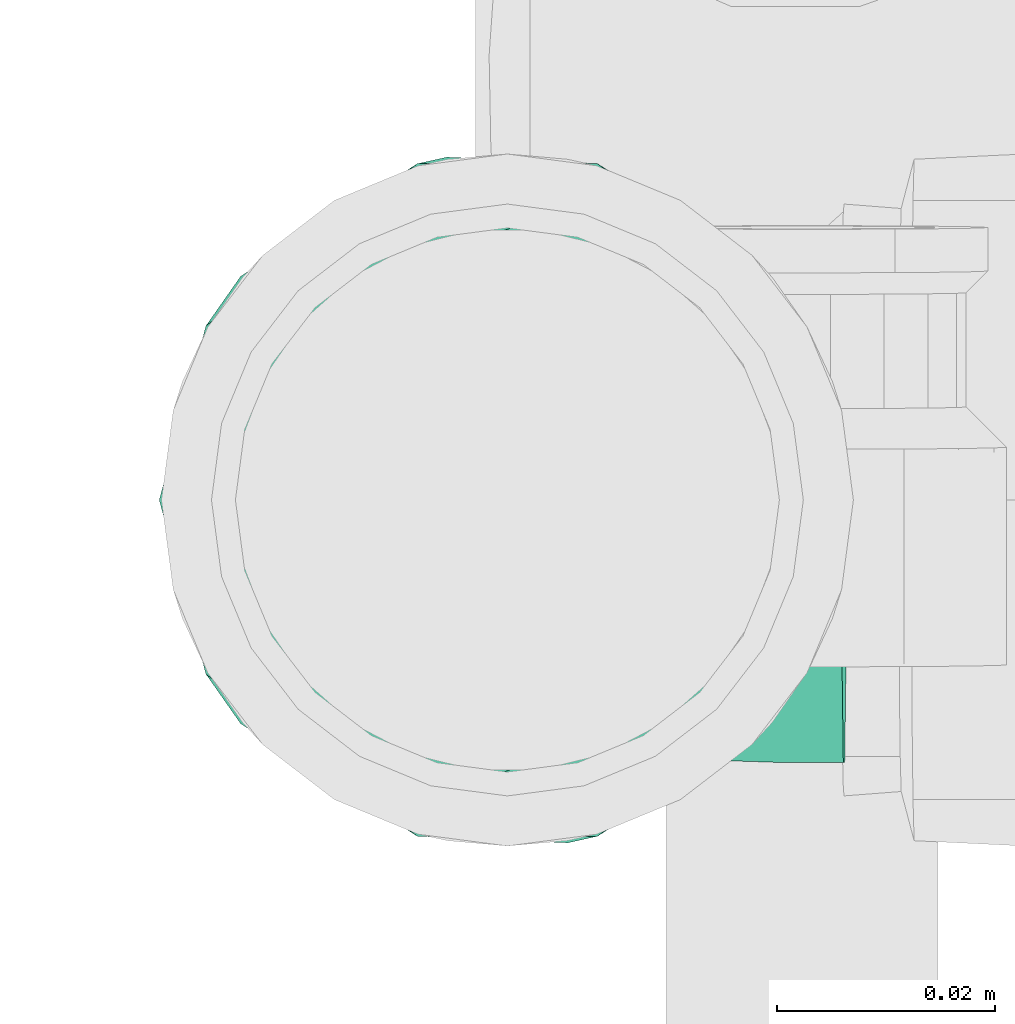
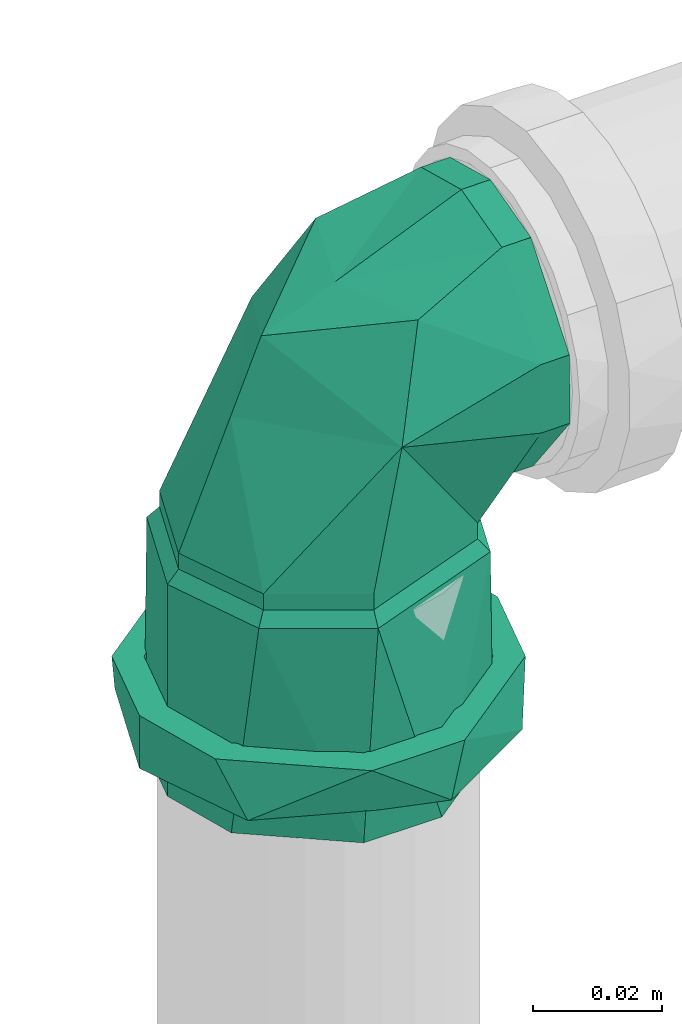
# One storey, part 169 of 589: 1 flow fitting.
"""IFC2X3 building model written with IfcOpenShell, lengths in millimetres."""

from ifc_helpers import new_model, entity, si_unit, converted_unit, derived_unit, direction, frame, origin, place, context, subcontext, project, spatial, faceted_brep, source, transform, mapped, material, type_object, type_shapes, element, save


model = new_model("IFC2X3")

# Units and contexts
model_context = context("Model", 3, precision=0.01, world=origin(), true_north=direction((6.123031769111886e-17, 1.0)))
body_context = subcontext(model_context, "Body", "Model", "MODEL_VIEW")
ifc_project = project(units=[si_unit("LENGTHUNIT", "METRE", prefix="MILLI"), si_unit("AREAUNIT", "SQUARE_METRE"), si_unit("VOLUMEUNIT", "CUBIC_METRE"), converted_unit("PLANEANGLEUNIT", "DEGREE", entity("IfcRatioMeasure", 0.017453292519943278), si_unit("PLANEANGLEUNIT", "RADIAN"), dimensions=[0, 0, 0, 0, 0, 0, 0]), si_unit("MASSUNIT", "GRAM", prefix="KILO"), derived_unit("MASSDENSITYUNIT", [(si_unit("MASSUNIT", "GRAM", prefix="KILO"), 1), (si_unit("LENGTHUNIT", "METRE"), -3)]), derived_unit("IONCONCENTRATIONUNIT", [(si_unit("MASSUNIT", "GRAM", prefix="KILO"), 1), (si_unit("LENGTHUNIT", "METRE"), -3)]), derived_unit("MOMENTOFINERTIAUNIT", [(si_unit("LENGTHUNIT", "METRE"), 4)]), si_unit("TIMEUNIT", "SECOND"), si_unit("FREQUENCYUNIT", "HERTZ"), si_unit("THERMODYNAMICTEMPERATUREUNIT", "DEGREE_CELSIUS"), derived_unit("THERMALTRANSMITTANCEUNIT", [(si_unit("MASSUNIT", "GRAM", prefix="KILO"), 1), (si_unit("THERMODYNAMICTEMPERATUREUNIT", "KELVIN"), -1), (si_unit("TIMEUNIT", "SECOND"), -3)]), derived_unit("THERMALCONDUCTANCEUNIT", [(si_unit("MASSUNIT", "GRAM", prefix="KILO"), 1), (si_unit("THERMODYNAMICTEMPERATUREUNIT", "KELVIN"), -1), (si_unit("TIMEUNIT", "SECOND"), -3), (si_unit("LENGTHUNIT", "METRE"), 1)]), derived_unit("VOLUMETRICFLOWRATEUNIT", [(si_unit("LENGTHUNIT", "METRE"), 3), (si_unit("TIMEUNIT", "SECOND"), -1)]), derived_unit("MASSFLOWRATEUNIT", [(si_unit("MASSUNIT", "GRAM", prefix="KILO"), 1), (si_unit("TIMEUNIT", "SECOND"), -1)]), derived_unit("ROTATIONALFREQUENCYUNIT", [(si_unit("TIMEUNIT", "SECOND"), -1)]), si_unit("ELECTRICCURRENTUNIT", "AMPERE"), si_unit("ELECTRICVOLTAGEUNIT", "VOLT"), si_unit("POWERUNIT", "WATT"), si_unit("FORCEUNIT", "NEWTON", prefix="KILO"), si_unit("ILLUMINANCEUNIT", "LUX"), si_unit("LUMINOUSFLUXUNIT", "LUMEN"), si_unit("LUMINOUSINTENSITYUNIT", "CANDELA"), derived_unit("USERDEFINED", [(si_unit("MASSUNIT", "GRAM", prefix="KILO"), -1), (si_unit("LENGTHUNIT", "METRE"), -2), (si_unit("TIMEUNIT", "SECOND"), 3), (si_unit("LUMINOUSFLUXUNIT", "LUMEN"), 1)]), derived_unit("USERDEFINED", [(si_unit("MASSUNIT", "GRAM", prefix="KILO"), 1), (si_unit("TIMEUNIT", "SECOND"), -3), (si_unit("LENGTHUNIT", "METRE"), 3), (si_unit("ELECTRICCURRENTUNIT", "AMPERE"), -2)]), derived_unit("SOUNDPOWERUNIT", [(si_unit("MASSUNIT", "GRAM", prefix="KILO"), 1), (si_unit("TIMEUNIT", "SECOND"), -3), (si_unit("LENGTHUNIT", "METRE"), 2)]), derived_unit("SOUNDPRESSUREUNIT", [(si_unit("MASSUNIT", "GRAM", prefix="KILO"), 1), (si_unit("LENGTHUNIT", "METRE"), -1), (si_unit("TIMEUNIT", "SECOND"), -2)]), derived_unit("LINEARVELOCITYUNIT", [(si_unit("LENGTHUNIT", "METRE"), 1), (si_unit("TIMEUNIT", "SECOND"), -1)]), si_unit("PRESSUREUNIT", "PASCAL"), derived_unit("USERDEFINED", [(si_unit("MASSUNIT", "GRAM", prefix="KILO"), 1), (si_unit("LENGTHUNIT", "METRE"), -2), (si_unit("TIMEUNIT", "SECOND"), -2)]), derived_unit("LINEARFORCEUNIT", [(si_unit("MASSUNIT", "GRAM", prefix="KILO"), 1), (si_unit("TIMEUNIT", "SECOND"), -2)]), derived_unit("PLANARFORCEUNIT", [(si_unit("MASSUNIT", "GRAM", prefix="KILO"), 1), (si_unit("LENGTHUNIT", "METRE"), -1), (si_unit("TIMEUNIT", "SECOND"), -2)]), derived_unit("SPECIFICHEATCAPACITYUNIT", [(si_unit("THERMODYNAMICTEMPERATUREUNIT", "KELVIN"), -1), (si_unit("LENGTHUNIT", "METRE"), 2), (si_unit("TIMEUNIT", "SECOND"), -2)]), derived_unit("HEATINGVALUEUNIT", [(si_unit("LENGTHUNIT", "METRE"), 2), (si_unit("TIMEUNIT", "SECOND"), -2)]), derived_unit("VAPORPERMEABILITYUNIT", [(si_unit("LENGTHUNIT", "METRE"), -1), (si_unit("TIMEUNIT", "SECOND"), 1)]), derived_unit("DYNAMICVISCOSITYUNIT", [(si_unit("MASSUNIT", "GRAM", prefix="KILO"), 1), (si_unit("TIMEUNIT", "SECOND"), -1), (si_unit("LENGTHUNIT", "METRE"), -1)]), derived_unit("THERMALEXPANSIONCOEFFICIENTUNIT", [(si_unit("THERMODYNAMICTEMPERATUREUNIT", "KELVIN"), -1)]), derived_unit("MODULUSOFELASTICITYUNIT", [(si_unit("MASSUNIT", "GRAM", prefix="KILO"), 1), (si_unit("LENGTHUNIT", "METRE"), -1), (si_unit("TIMEUNIT", "SECOND"), -2)]), derived_unit("ISOTHERMALMOISTURECAPACITYUNIT", [(si_unit("LENGTHUNIT", "METRE"), 3), (si_unit("MASSUNIT", "GRAM", prefix="KILO"), -1)]), derived_unit("MOISTUREDIFFUSIVITYUNIT", [(si_unit("TIMEUNIT", "SECOND"), -1), (si_unit("LENGTHUNIT", "METRE"), 2)])], contexts=[model_context])

# Site, building, storey
site_placement = place(None, origin())
site = spatial("IfcSite", under=ifc_project, at=site_placement, Name="Default", CompositionType="ELEMENT")
building_placement = place(site_placement, origin())
building = spatial("IfcBuilding", under=site, at=building_placement, CompositionType="ELEMENT")
storey_placement = place(building_placement, frame((0.0, 0.0, 100.0)))
storey = spatial("IfcBuildingStorey", under=building, at=storey_placement, Name="TÉRREO", CompositionType="ELEMENT", Elevation=100.0)

# Flow fitting
ifc_material = material(Name="PVC Série Normal")
pipe_fitting_type = type_object("IfcPipeFittingType", Name="PVC Esgoto_Joelho 45_90_Rodrigo MEP:a. Série Normal", PredefinedType="NOTDEFINED", material=ifc_material)
shared_shape = source(origin(), body_context, "Body", "Brep", [
    faceted_brep([(-6.212752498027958, 25.804714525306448, 24.14814565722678), (-21.392152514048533, 25.95650852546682, 12.500000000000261), (-24.741349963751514, 25.990000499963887, 0.0), (-21.392152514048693, 25.956508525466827, -12.499999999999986), (-6.21275249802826, 25.804714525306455, -24.1481456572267), (6.727552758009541, 25.675311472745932, -24.14814565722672), (21.906952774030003, 25.52351747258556, -12.500000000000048), (25.256150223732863, 25.490025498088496, 0.0), (21.906952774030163, 25.52351747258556, 12.499999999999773), (6.7275527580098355, 25.675311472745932, 24.148145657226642), (25.308147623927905, 30.689765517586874, 0.0), (21.958950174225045, 30.72325749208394, -12.500000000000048), (6.779550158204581, 30.87505149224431, -24.14814565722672), (-6.160755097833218, 31.004454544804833, -24.1481456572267), (-21.34015511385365, 31.156248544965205, -12.499999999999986), (-24.689352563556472, 31.18974051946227, 0.0), (-21.340155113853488, 31.1562485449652, 12.500000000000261), (-6.160755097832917, 31.00445454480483, 24.14814565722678), (6.779550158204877, 30.87505149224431, 24.148145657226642), (21.958950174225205, 30.72325749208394, 12.499999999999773)], [[[0, 1, 2, 3, 4, 5, 6, 7, 8, 9]], [[10, 11, 12, 13, 14, 15, 16, 17, 18, 19]], [[7, 10, 19, 8]], [[8, 19, 18, 9]], [[18, 17, 0, 9]], [[0, 17, 16, 1]], [[1, 16, 15, 2]], [[2, 15, 14, 3]], [[3, 14, 13, 4]], [[13, 12, 5, 4]], [[5, 12, 11, 6]], [[6, 11, 10, 7]]]),
    faceted_brep([(-70.94129996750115, -6.988114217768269, -26.07999730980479), (-70.94129996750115, -6.47047612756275, -24.14814565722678), (-70.94129996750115, 6.4704761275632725, -24.148145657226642), (-70.94129996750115, -23.382685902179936, -13.499999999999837), (-70.94129996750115, 6.988114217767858, -26.0799973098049), (-70.94129996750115, -21.650635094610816, -12.500000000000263), (-70.94129996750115, -25.0, 0.0), (-70.94129996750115, -27.0, 0.0), (-70.94129996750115, -21.650635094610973, 12.499999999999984), (-70.94129996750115, -23.382685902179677, 13.500000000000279), (-70.94129996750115, -6.470476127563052, 24.1481456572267), (-70.94129996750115, -6.98811421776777, 26.079997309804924), (-70.94129996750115, 6.470476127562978, 24.14814565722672), (-70.94129996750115, 6.988114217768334, 26.07999730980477), (-70.94129996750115, 21.650635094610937, 12.500000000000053), (-70.94129996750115, 23.38268590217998, 13.499999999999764), (-70.94129996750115, 27.0, 0.0), (-70.94129996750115, 25.0, 0.0), (-70.94129996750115, 23.382685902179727, -13.500000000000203), (-70.94129996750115, 21.6506350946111, -12.499999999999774), (-30.94129996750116, 21.650635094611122, -12.499999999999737), (-30.94129996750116, 25.0, 0.0), (-30.94129996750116, 6.4704761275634, -24.148145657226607), (-30.94129996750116, -6.470476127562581, -24.148145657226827), (-30.94129996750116, -21.650635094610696, -12.500000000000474), (-30.94129996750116, -25.0, 0.0), (-30.94129996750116, -21.65063509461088, 12.500000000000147), (-30.94129996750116, -6.470476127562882, 24.14814565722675), (-30.94129996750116, 6.470476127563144, 24.148145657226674), (-30.94129996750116, 21.650635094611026, 12.499999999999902), (-30.94129996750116, 27.0, 0.0), (-30.941299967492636, 20.682232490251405, 17.356418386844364), (-30.94129996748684, 4.685536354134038, 26.59033187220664), (-30.94129996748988, -20.686585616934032, 17.35122979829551), (-30.94129996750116, -27.0, 0.0), (-30.941299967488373, -8.000524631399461, 21.970780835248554), (-30.94129996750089, -20.686585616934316, -17.35122979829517), (-30.9412999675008, -4.6922062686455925, -26.589155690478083), (-30.94129996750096, 20.682232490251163, -17.356418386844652), (-30.94129996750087, 7.995013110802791, -21.97278703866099), (-28.74129996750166, -4.338459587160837, -24.62067765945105), (-28.741299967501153, 25.0, 0.0), (-28.741299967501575, 19.154245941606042, -16.065953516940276), (-28.741299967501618, 7.407893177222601, -20.34331558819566), (-28.741299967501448, -19.15021526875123, -16.070757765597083), (-28.741299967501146, -25.0, 0.0), (-28.741299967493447, -19.150215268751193, 16.07075776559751), (-28.741299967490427, -7.402789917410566, 20.345173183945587), (-28.74129996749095, 19.15424594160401, 16.065953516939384), (-28.741299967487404, 4.344635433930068, 24.619588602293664), (-25.741299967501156, 25.0, 0.0), (-25.741299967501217, 19.151286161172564, 16.069481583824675), (-25.741299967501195, 4.341396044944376, 24.62016003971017), (-25.741299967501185, -7.404832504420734, 20.344954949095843), (-25.741299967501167, -19.15106105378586, 16.069749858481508), (-25.741299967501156, -25.0, 0.0), (-25.741299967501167, -19.15106105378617, -16.069749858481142), (-25.741299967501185, -4.341051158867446, -24.62022085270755), (-25.741299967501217, 19.15128616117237, -16.069481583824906), (-25.7412999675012, 7.405117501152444, -20.344851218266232), (-6.212752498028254, 25.80471452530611, -24.1481456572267), (-21.39215251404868, 25.95650852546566, -12.499999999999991), (-24.74134996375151, 25.990000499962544, 0.0), (-21.3921525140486, 25.956508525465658, 12.500000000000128), (-6.2127524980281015, 25.80471452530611, 24.14814565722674), (6.7275527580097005, 25.67531147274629, 24.148145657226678), (21.906952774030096, 25.52351747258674, 12.499999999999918), (25.256150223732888, 25.490025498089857, 0.0), (21.90695277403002, 25.523517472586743, -12.500000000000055), (6.727552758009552, 25.67531147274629, -24.14814565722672), (-0.83580225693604, 1.5246716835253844, 23.354962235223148), (-3.2027279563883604, -15.730161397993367, 0.0), (10.140389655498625, -10.242300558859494, 0.0), (16.135012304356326, 8.632944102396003, 15.848254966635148), (-25.03773742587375, 25.289366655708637, 0.0), (15.761400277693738, 3.0452732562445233, 0.0), (16.135011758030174, 8.632944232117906, -15.848255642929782), (-0.8751695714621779, 1.433288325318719, -23.341145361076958)], [[[0, 1, 2]], [[1, 0, 3]], [[2, 4, 0]], [[3, 5, 1]], [[3, 6, 5]], [[6, 3, 7]], [[8, 6, 7]], [[8, 7, 9]], [[9, 10, 8]], [[9, 11, 10]], [[10, 11, 12]], [[13, 12, 11]], [[13, 14, 12]], [[14, 13, 15]], [[16, 14, 15]], [[17, 14, 16]], [[18, 17, 16]], [[18, 19, 17]], [[19, 18, 4]], [[4, 2, 19]], [[20, 21, 17, 19]], [[22, 20, 19, 2]], [[2, 1, 23, 22]], [[24, 23, 1, 5]], [[25, 24, 5, 6]], [[26, 25, 6, 8]], [[27, 26, 8, 10]], [[10, 12, 28, 27]], [[29, 28, 12, 14]], [[21, 29, 14, 17]], [[16, 15, 30]], [[15, 31, 30]], [[31, 15, 13]], [[31, 13, 32]], [[33, 11, 9]], [[34, 9, 7]], [[11, 33, 35, 32]], [[33, 9, 34]], [[11, 32, 13]], [[7, 3, 34]], [[3, 36, 34]], [[36, 3, 0]], [[36, 0, 37]], [[38, 4, 18]], [[30, 18, 16]], [[4, 38, 39, 37]], [[38, 18, 30]], [[4, 37, 0]], [[28, 29, 21, 20, 22, 23, 24, 25, 26, 27]], [[39, 40, 37]], [[41, 42, 30]], [[30, 42, 38]], [[38, 43, 39]], [[44, 45, 36]], [[38, 42, 43]], [[36, 37, 44]], [[34, 36, 45]], [[40, 39, 43]], [[44, 37, 40]], [[45, 46, 33]], [[33, 34, 45]], [[46, 35, 33]], [[46, 47, 35]], [[47, 32, 35]], [[48, 41, 30]], [[48, 31, 49]], [[31, 48, 30]], [[32, 47, 49]], [[49, 31, 32]], [[41, 48, 50]], [[48, 51, 50]], [[51, 48, 49]], [[51, 49, 52]], [[52, 47, 53]], [[46, 54, 53]], [[46, 45, 54]], [[49, 47, 52]], [[54, 45, 55]], [[47, 46, 53]], [[45, 44, 56]], [[45, 56, 55]], [[56, 44, 57]], [[58, 59, 43]], [[44, 40, 57]], [[40, 59, 57]], [[58, 43, 42]], [[42, 50, 58]], [[50, 42, 41]], [[59, 40, 43]], [[60, 61, 62, 63, 64, 65, 66, 67, 68, 69]], [[52, 70, 51]], [[54, 71, 70]], [[70, 52, 53, 54]], [[72, 73, 70]], [[50, 63, 74]], [[51, 63, 50]], [[54, 55, 71]], [[72, 70, 71]], [[75, 67, 66]], [[65, 70, 73]], [[73, 75, 66]], [[74, 63, 62]], [[73, 66, 65]], [[63, 51, 64]], [[70, 64, 51]], [[73, 72, 75]], [[65, 64, 70]], [[72, 76, 75]], [[71, 55, 56]], [[77, 58, 60]], [[77, 57, 59, 58]], [[77, 71, 56]], [[56, 57, 77]], [[77, 69, 76]], [[58, 50, 61]], [[74, 62, 61]], [[71, 77, 72]], [[61, 60, 58]], [[68, 75, 76]], [[68, 67, 75]], [[72, 77, 76]], [[76, 69, 68]], [[60, 69, 77]], [[61, 50, 74]]]),
    faceted_brep([(-53.94129996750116, 6.9881142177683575, -26.07999730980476), (-53.94129996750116, -6.988114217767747, -26.079997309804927), (-53.94129996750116, -8.282209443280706, -30.909626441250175), (-53.94129996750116, 8.28220944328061, -30.9096264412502), (-53.94129996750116, 23.38268590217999, -13.499999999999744), (-53.94129996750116, -27.712812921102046, -16.0), (-53.94129996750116, -23.38268590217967, -13.500000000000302), (-53.94129996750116, -27.0, 0.0), (-53.94129996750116, -32.0, 0.0), (-53.94129996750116, -23.382685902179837, 13.500000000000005), (-53.94129996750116, -27.712812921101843, 16.0), (-53.94129996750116, -6.988114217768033, 26.07999730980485), (-53.94129996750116, -8.28220944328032, 30.909626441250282), (-53.94129996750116, 6.988114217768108, 26.07999730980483), (-53.94129996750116, 8.282209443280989, 30.909626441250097), (-53.94129996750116, 23.382685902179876, 13.499999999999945), (-53.94129996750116, 27.712812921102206, 16.0), (-53.94129996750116, 32.0, 0.0), (-53.94129996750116, 27.0, 0.0), (-53.94129996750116, 27.712812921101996, -16.0), (-63.94129996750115, 27.0, 0.0), (-65.24129996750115, 27.0, 0.0), (-63.94129996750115, 25.191342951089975, -6.750000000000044), (-63.94129996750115, 23.38268590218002, -13.499999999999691), (-63.94129996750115, 19.284042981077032, -16.644999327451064), (-63.94129996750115, 15.185400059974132, -19.789998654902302), (-63.94129996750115, 11.086757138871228, -22.934997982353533), (-63.94129996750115, 6.988114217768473, -26.07999730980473), (-63.94129996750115, 0.0, -26.079997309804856), (-63.94129996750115, -6.988114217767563, -26.079997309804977), (-63.94129996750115, -11.086757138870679, -22.934997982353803), (-63.94129996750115, -15.185400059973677, -19.789998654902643), (-63.94129996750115, -19.284042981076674, -16.644999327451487), (-63.94129996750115, -23.382685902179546, -13.50000000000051), (-63.94129996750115, -25.191342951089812, -6.750000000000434), (-65.24129996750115, -27.0, 0.0), (-63.94129996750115, -27.0, 0.0), (-63.94129996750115, -25.19134295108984, 6.750000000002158), (-63.94129996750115, -23.382685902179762, 13.500000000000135), (-63.94129996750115, -19.284042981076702, 16.64499932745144), (-63.94129996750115, -15.185400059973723, 19.7899986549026), (-63.94129996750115, -11.086757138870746, 22.934997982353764), (-63.94129996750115, -6.988114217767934, 26.079997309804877), (-63.94129996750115, 0.0, 26.079997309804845), (-63.94129996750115, 6.988114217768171, 26.079997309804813), (-63.94129996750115, 11.086757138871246, 22.93499798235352), (-63.94129996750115, 15.185400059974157, 19.789998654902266), (-63.94129996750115, 19.284042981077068, 16.644999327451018), (-63.94129996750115, 23.382685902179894, 13.499999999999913), (-63.94129996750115, 25.19134295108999, 6.74999999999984), (-63.94129996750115, 32.0, 0.0), (-63.94129996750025, 24.512275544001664, 20.570569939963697), (-63.94129996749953, -5.561133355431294, 31.51307341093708), (-63.94129996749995, -24.51743480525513, 20.56442050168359), (-63.94129996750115, -32.0, 0.0), (-63.9412999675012, -24.51743480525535, -20.564420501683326), (-63.941299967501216, 5.553228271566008, -31.514467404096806), (-63.94129996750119, 24.512275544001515, -20.570569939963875), (-65.2412999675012, -23.84329280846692, -8.675614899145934), (-65.24129996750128, -20.686585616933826, -17.351229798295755), (-65.24129996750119, 23.841116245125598, -8.678209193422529), (-65.24129996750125, 20.6822324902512, -17.356418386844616), (-65.24129996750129, -12.689395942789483, -21.970192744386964), (-65.24129996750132, -4.692206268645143, -26.589155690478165), (-65.24129996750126, 14.338622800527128, -19.664602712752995), (-65.24129996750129, 1.6514034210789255, -24.280971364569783), (-65.24129996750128, 7.995013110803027, -21.97278703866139), (-65.24129996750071, 23.84111624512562, 8.678209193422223), (-65.24129996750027, 20.68223249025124, 17.35641838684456), (-65.24129996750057, -23.843292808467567, 8.675614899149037), (-65.24129996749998, -20.68658561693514, 17.351229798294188), (-65.24129996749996, 12.683884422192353, 21.973375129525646), (-65.24129996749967, 4.685536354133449, 26.590331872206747), (-65.2412999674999, -14.343555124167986, 19.66100531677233), (-65.24129996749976, -1.6574941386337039, 24.280556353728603), (-65.24129996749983, -8.000524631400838, 21.97078083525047)], [[[0, 1, 2]], [[2, 3, 0]], [[4, 0, 3]], [[5, 2, 1]], [[1, 6, 5]], [[6, 7, 5]], [[8, 5, 7]], [[8, 7, 9]], [[10, 8, 9]], [[9, 11, 10]], [[11, 12, 10]], [[13, 12, 11]], [[12, 13, 14]], [[13, 15, 14]], [[16, 14, 15]], [[16, 15, 17]], [[17, 15, 18]], [[18, 4, 19]], [[17, 18, 19]], [[3, 19, 4]], [[4, 18, 20, 21, 22, 23]], [[0, 4, 23, 24, 25, 26, 27]], [[0, 27, 28, 29, 1]], [[6, 1, 29, 30, 31, 32, 33]], [[7, 6, 33, 34, 35, 36]], [[9, 7, 36, 35, 37, 38]], [[11, 9, 38, 39, 40, 41, 42]], [[11, 42, 43, 44, 13]], [[15, 13, 44, 45, 46, 47, 48]], [[18, 15, 48, 49, 21, 20]], [[50, 51, 16]], [[50, 16, 17]], [[16, 51, 14]], [[51, 52, 14]], [[12, 52, 53]], [[10, 53, 54]], [[53, 10, 12]], [[10, 54, 8]], [[52, 12, 14]], [[54, 55, 5]], [[54, 5, 8]], [[5, 55, 2]], [[55, 56, 2]], [[3, 56, 57]], [[19, 57, 50]], [[57, 19, 3]], [[19, 50, 17]], [[56, 3, 2]], [[58, 33, 59]], [[23, 60, 61]], [[32, 31, 59, 33]], [[30, 29, 62, 31]], [[24, 23, 61, 25]], [[29, 28, 63]], [[26, 25, 64]], [[65, 63, 28]], [[31, 62, 59]], [[63, 62, 29]], [[60, 22, 21]], [[34, 58, 35]], [[66, 26, 64]], [[28, 27, 65]], [[27, 66, 65]], [[27, 26, 66]], [[64, 25, 61]], [[34, 33, 58]], [[60, 23, 22]], [[67, 48, 68]], [[38, 69, 70]], [[47, 46, 68, 48]], [[45, 44, 71, 46]], [[39, 38, 70, 40]], [[44, 43, 72]], [[41, 40, 73]], [[74, 72, 43]], [[46, 71, 68]], [[72, 71, 44]], [[69, 37, 35]], [[49, 67, 21]], [[75, 41, 73]], [[43, 42, 74]], [[42, 75, 74]], [[42, 41, 75]], [[73, 40, 70]], [[49, 48, 67]], [[69, 38, 37]], [[54, 35, 58, 59, 55]], [[55, 59, 62, 63]], [[55, 63, 56]], [[57, 61, 60, 21, 50]], [[57, 56, 61]], [[56, 63, 65, 66, 64, 61]], [[50, 21, 67, 68, 51]], [[51, 68, 71, 72]], [[51, 72, 52]], [[53, 70, 69, 35, 54]], [[53, 52, 70]], [[52, 72, 74, 75, 73, 70]]]),
])
type_shapes(pipe_fitting_type, [shared_shape])
flow_fitting_placement = place(storey_placement, frame((11824.978158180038, -6666.695187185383, 3042.1999999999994), z_axis=(0.0, 1.0, 0.0), x_axis=(0.0, 0.0, 1.0)))
element("IfcFlowFitting", 1, at=flow_fitting_placement, inside=storey, type_object=pipe_fitting_type, material=ifc_material, Name="PVC Esgoto_Joelho 45_90_Rodrigo MEP:a. Série Normal", ObjectType="PVC Esgoto_Joelho 45_90_Rodrigo MEP:a. Série Normal", context=body_context, shape_type="MappedRepresentation", body=[
    mapped(shared_shape, transform((0.0, 0.0, 0.0), scale=1.0)),
])

save(model, "model.ifc")
